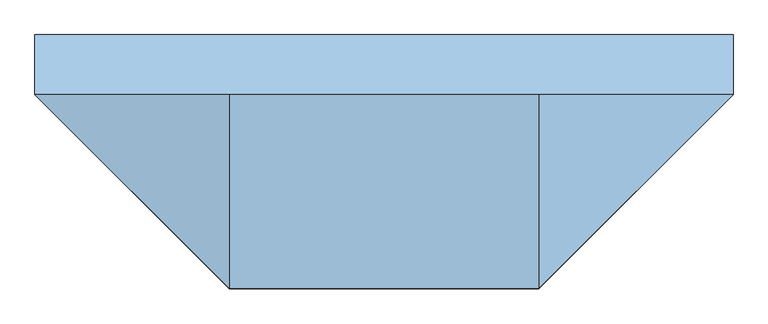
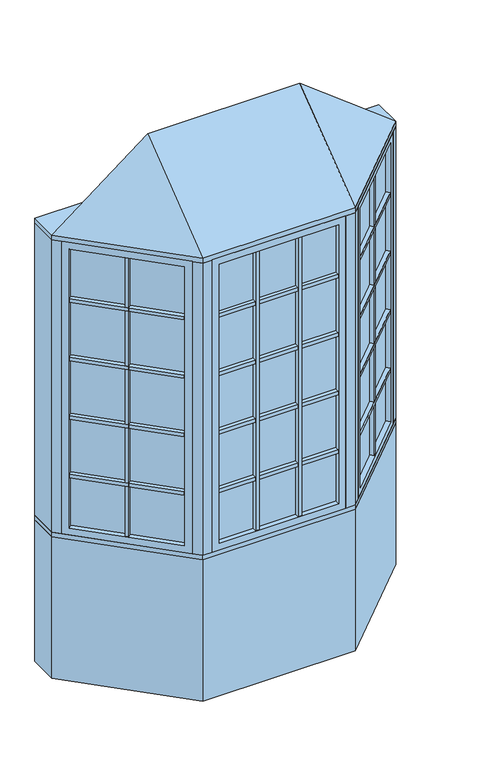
"""IFC4 building model written with IfcOpenShell, lengths in millimetres: window geometry, Pollard_Windows_Tudor Casement Bows and Bays : AML-BAY 45 AFR0516-08-600_GC."""

from ifc_helpers import new_model, si_unit, frame, origin, origin_with_axes, place, context, project, spatial, polyline, outline, extrude, faceted_brep, source, transform, mapped, element, save


def window_a070897f(model_context):
    return source(origin(), model_context, "Body", "SolidModel", [
        extrude(outline(polyline([(453.0114193, -506.9608753), (437.4550701, -491.4045261), (815.116171, -113.7434252), (830.6725202, -129.2997743), (453.0114193, -506.9608753)])), frame((0.0, 0.0, 1110.998), z_axis=(0.0, 0.0, 1.0), x_axis=(1.0, 0.0, 0.0)), (0.0, 0.0, 1.0), 18.0),
        extrude(outline(polyline([(433.8629677, -487.8124236), (418.3066185, -472.2560744), (795.9677194, -94.5949735), (811.5240686, -110.1513227), (433.8629677, -487.8124236)])), frame((0.0, 0.0, 1110.998), z_axis=(0.0, 0.0, 1.0), x_axis=(1.0, 0.0, 0.0)), (0.0, 0.0, 1.0), 18.0),
        extrude(outline(polyline([(453.0114193, -506.9608753), (437.4550701, -491.4045261), (815.116171, -113.7434252), (830.6725202, -129.2997743), (453.0114193, -506.9608753)])), frame((0.0, 0.0, 1430.998), z_axis=(0.0, 0.0, 1.0), x_axis=(1.0, 0.0, 0.0)), (0.0, 0.0, 1.0), 18.0),
        extrude(outline(polyline([(433.8629677, -487.8124236), (418.3066185, -472.2560744), (795.9677194, -94.5949735), (811.5240686, -110.1513227), (433.8629677, -487.8124236)])), frame((0.0, 0.0, 1430.998), z_axis=(0.0, 0.0, 1.0), x_axis=(1.0, 0.0, 0.0)), (0.0, 0.0, 1.0), 18.0),
        extrude(outline(polyline([(453.0114193, -506.9608753), (437.4550701, -491.4045261), (815.116171, -113.7434252), (830.6725202, -129.2997743), (453.0114193, -506.9608753)])), frame((0.0, 0.0, 1750.998), z_axis=(0.0, 0.0, 1.0), x_axis=(1.0, 0.0, 0.0)), (0.0, 0.0, 1.0), 18.0),
        extrude(outline(polyline([(433.8629677, -487.8124236), (418.3066185, -472.2560744), (795.9677194, -94.5949735), (811.5240686, -110.1513227), (433.8629677, -487.8124236)])), frame((0.0, 0.0, 1750.998), z_axis=(0.0, 0.0, 1.0), x_axis=(1.0, 0.0, 0.0)), (0.0, 0.0, 1.0), 18.0),
        extrude(outline(polyline([(453.0114193, -506.9608753), (437.4550701, -491.4045261), (815.116171, -113.7434252), (830.6725202, -129.2997743), (453.0114193, -506.9608753)])), frame((0.0, 0.0, 2070.998), z_axis=(0.0, 0.0, 1.0), x_axis=(1.0, 0.0, 0.0)), (0.0, 0.0, 1.0), 18.0),
        extrude(outline(polyline([(433.8629677, -487.8124236), (418.3066185, -472.2560744), (795.9677194, -94.5949735), (811.5240686, -110.1513227), (433.8629677, -487.8124236)])), frame((0.0, 0.0, 2070.998), z_axis=(0.0, 0.0, 1.0), x_axis=(1.0, 0.0, 0.0)), (0.0, 0.0, 1.0), 18.0),
        extrude(outline(polyline([(632.6495816, -296.2100146), (648.2059308, -311.7663638), (635.4780087, -324.4942858), (619.9216595, -308.9379366), (632.6495816, -296.2100146)])), frame((0.0, 0.0, 835.8628), z_axis=(0.0, 0.0, 1.0), x_axis=(1.0, 0.0, 0.0)), (0.0, 0.0, 1.0), 1528.2704),
        extrude(outline(polyline([(629.0574791, -292.6179121), (616.3295571, -305.3458342), (600.7732079, -289.789485), (613.50113, -277.0615629), (629.0574791, -292.6179121)])), frame((0.0, 0.0, 835.8628), z_axis=(0.0, 0.0, 1.0), x_axis=(1.0, 0.0, 0.0)), (0.0, 0.0, 1.0), 1528.2704),
        extrude(outline(polyline([(824.0964271, -104.763169), (428.474814, -500.3847822), (424.8827115, -496.7926797), (820.5043247, -101.1710666), (824.0964271, -104.763169)])), frame((0.0, 0.0, 823.1628), z_axis=(0.0, 0.0, 1.0), x_axis=(1.0, 0.0, 0.0)), (0.0, 0.0, 1.0), 1553.6704),
        faceted_brep([(815.116171, -113.7434252, 835.8628), (833.0766833, -131.7039374, 835.8628), (833.0766833, -131.7039374, 2364.1332), (815.116171, -113.7434252, 2364.1332), (820.5043247, -101.1710666, 823.1628), (824.0964271, -104.763169, 823.1628), (824.0964271, -104.763169, 2376.8332), (820.5043247, -101.1710666, 2376.8332), (793.5635563, -92.1908105, 835.8628), (811.5240686, -110.1513227, 835.8628), (811.5240686, -110.1513227, 2364.1332), (793.5635563, -92.1908105, 2364.1332), (858.4369265, -106.3436941, 799.998), (818.9237996, -66.8305672, 799.998), (818.9237996, -66.8305672, 2399.998), (858.4369265, -106.3436941, 2399.998), (455.4155823, -509.3650383, 2364.1332), (437.4550701, -491.4045261, 2364.1332), (428.474814, -500.3847822, 2376.8332), (424.8827115, -496.7926797, 2376.8332), (433.8629677, -487.8124236, 2364.1332), (415.9024554, -469.8519114, 2364.1332), (390.5422121, -495.2121547, 2399.998), (430.0553391, -534.7252816, 2399.998), (455.4155823, -509.3650383, 835.8628), (437.4550701, -491.4045261, 835.8628), (428.474814, -500.3847822, 823.1628), (424.8827115, -496.7926797, 823.1628), (433.8629677, -487.8124236, 835.8628), (415.9024554, -469.8519114, 835.8628), (390.5422121, -495.2121547, 799.998), (430.0553391, -534.7252816, 799.998)], [[[0, 1, 2, 3]], [[4, 5, 6, 7]], [[8, 9, 10, 11]], [[12, 13, 14, 15]], [[3, 2, 16, 17]], [[7, 6, 18, 19]], [[11, 10, 20, 21]], [[15, 14, 22, 23]], [[17, 16, 24, 25]], [[19, 18, 26, 27]], [[21, 20, 28, 29]], [[23, 22, 30, 31]], [[25, 24, 1, 0]], [[5, 26, 18, 6], [3, 17, 25, 0]], [[27, 26, 5, 4]], [[7, 19, 27, 4], [9, 28, 20, 10]], [[29, 28, 9, 8]], [[13, 30, 22, 14], [11, 21, 29, 8]], [[31, 30, 13, 12]], [[15, 23, 31, 12], [1, 24, 16, 2]]]),
        extrude(outline(polyline([(119.1785333, -544.6806207), (119.1785333, -566.6806207), (101.1785333, -566.6806207), (101.1785333, -544.6806207), (119.1785333, -544.6806207)])), frame((0.0, 0.0, 835.8628), z_axis=(0.0, 0.0, 1.0), x_axis=(1.0, 0.0, 0.0)), (0.0, 0.0, 1.0), 1528.2704),
        extrude(outline(polyline([(119.1785333, -539.6006207), (101.1785333, -539.6006207), (101.1785333, -517.6006207), (119.1785333, -517.6006207), (119.1785333, -539.6006207)])), frame((0.0, 0.0, 835.8628), z_axis=(0.0, 0.0, 1.0), x_axis=(1.0, 0.0, 0.0)), (0.0, 0.0, 1.0), 1528.2704),
        extrude(outline(polyline([(-101.1785333, -544.6806207), (-101.1785333, -566.6806207), (-119.1785333, -566.6806207), (-119.1785333, -544.6806207), (-101.1785333, -544.6806207)])), frame((0.0, 0.0, 835.8628), z_axis=(0.0, 0.0, 1.0), x_axis=(1.0, 0.0, 0.0)), (0.0, 0.0, 1.0), 1528.2704),
        extrude(outline(polyline([(-101.1785333, -539.6006207), (-119.1785333, -539.6006207), (-119.1785333, -517.6006207), (-101.1785333, -517.6006207), (-101.1785333, -539.6006207)])), frame((0.0, 0.0, 835.8628), z_axis=(0.0, 0.0, 1.0), x_axis=(1.0, 0.0, 0.0)), (0.0, 0.0, 1.0), 1528.2704),
        extrude(outline(polyline([(-308.8352, -566.6806207), (-308.8352, -544.6806207), (308.8352, -544.6806207), (308.8352, -566.6806207), (-308.8352, -566.6806207)])), frame((0.0, 0.0, 1110.998), z_axis=(0.0, 0.0, 1.0), x_axis=(1.0, 0.0, 0.0)), (0.0, 0.0, 1.0), 18.0),
        extrude(outline(polyline([(-308.8352, -539.6006207), (-308.8352, -517.6006207), (308.8352, -517.6006207), (308.8352, -539.6006207), (-308.8352, -539.6006207)])), frame((0.0, 0.0, 1110.998), z_axis=(0.0, 0.0, 1.0), x_axis=(1.0, 0.0, 0.0)), (0.0, 0.0, 1.0), 18.0),
        extrude(outline(polyline([(-308.8352, -566.6806207), (-308.8352, -544.6806207), (308.8352, -544.6806207), (308.8352, -566.6806207), (-308.8352, -566.6806207)])), frame((0.0, 0.0, 1430.998), z_axis=(0.0, 0.0, 1.0), x_axis=(1.0, 0.0, 0.0)), (0.0, 0.0, 1.0), 18.0),
        extrude(outline(polyline([(-308.8352, -539.6006207), (-308.8352, -517.6006207), (308.8352, -517.6006207), (308.8352, -539.6006207), (-308.8352, -539.6006207)])), frame((0.0, 0.0, 1430.998), z_axis=(0.0, 0.0, 1.0), x_axis=(1.0, 0.0, 0.0)), (0.0, 0.0, 1.0), 18.0),
        extrude(outline(polyline([(-308.8352, -566.6806207), (-308.8352, -544.6806207), (308.8352, -544.6806207), (308.8352, -566.6806207), (-308.8352, -566.6806207)])), frame((0.0, 0.0, 1750.998), z_axis=(0.0, 0.0, 1.0), x_axis=(1.0, 0.0, 0.0)), (0.0, 0.0, 1.0), 18.0),
        extrude(outline(polyline([(-308.8352, -539.6006207), (-308.8352, -517.6006207), (308.8352, -517.6006207), (308.8352, -539.6006207), (-308.8352, -539.6006207)])), frame((0.0, 0.0, 1750.998), z_axis=(0.0, 0.0, 1.0), x_axis=(1.0, 0.0, 0.0)), (0.0, 0.0, 1.0), 18.0),
        extrude(outline(polyline([(-830.6725202, -129.2997743), (-815.116171, -113.7434252), (-437.4550701, -491.4045261), (-453.0114193, -506.9608753), (-830.6725202, -129.2997743)])), frame((0.0, 0.0, 1110.998), z_axis=(0.0, 0.0, 1.0), x_axis=(1.0, 0.0, 0.0)), (0.0, 0.0, 1.0), 18.0),
        extrude(outline(polyline([(-811.5240686, -110.1513227), (-795.9677194, -94.5949735), (-418.3066185, -472.2560744), (-433.8629677, -487.8124236), (-811.5240686, -110.1513227)])), frame((0.0, 0.0, 1110.998), z_axis=(0.0, 0.0, 1.0), x_axis=(1.0, 0.0, 0.0)), (0.0, 0.0, 1.0), 18.0),
        extrude(outline(polyline([(-830.6725202, -129.2997743), (-815.116171, -113.7434252), (-437.4550701, -491.4045261), (-453.0114193, -506.9608753), (-830.6725202, -129.2997743)])), frame((0.0, 0.0, 1430.998), z_axis=(0.0, 0.0, 1.0), x_axis=(1.0, 0.0, 0.0)), (0.0, 0.0, 1.0), 18.0),
        extrude(outline(polyline([(-811.5240686, -110.1513227), (-795.9677194, -94.5949735), (-418.3066185, -472.2560744), (-433.8629677, -487.8124236), (-811.5240686, -110.1513227)])), frame((0.0, 0.0, 1430.998), z_axis=(0.0, 0.0, 1.0), x_axis=(1.0, 0.0, 0.0)), (0.0, 0.0, 1.0), 18.0),
        extrude(outline(polyline([(-830.6725202, -129.2997743), (-815.116171, -113.7434252), (-437.4550701, -491.4045261), (-453.0114193, -506.9608753), (-830.6725202, -129.2997743)])), frame((0.0, 0.0, 1750.998), z_axis=(0.0, 0.0, 1.0), x_axis=(1.0, 0.0, 0.0)), (0.0, 0.0, 1.0), 18.0),
        extrude(outline(polyline([(-811.5240686, -110.1513227), (-795.9677194, -94.5949735), (-418.3066185, -472.2560744), (-433.8629677, -487.8124236), (-811.5240686, -110.1513227)])), frame((0.0, 0.0, 1750.998), z_axis=(0.0, 0.0, 1.0), x_axis=(1.0, 0.0, 0.0)), (0.0, 0.0, 1.0), 18.0),
        extrude(outline(polyline([(-830.6725202, -129.2997743), (-815.116171, -113.7434252), (-437.4550701, -491.4045261), (-453.0114193, -506.9608753), (-830.6725202, -129.2997743)])), frame((0.0, 0.0, 2070.998), z_axis=(0.0, 0.0, 1.0), x_axis=(1.0, 0.0, 0.0)), (0.0, 0.0, 1.0), 18.0),
        extrude(outline(polyline([(-811.5240686, -110.1513227), (-795.9677194, -94.5949735), (-418.3066185, -472.2560744), (-433.8629677, -487.8124236), (-811.5240686, -110.1513227)])), frame((0.0, 0.0, 2070.998), z_axis=(0.0, 0.0, 1.0), x_axis=(1.0, 0.0, 0.0)), (0.0, 0.0, 1.0), 18.0),
        extrude(outline(polyline([(-308.8352, -566.6806207), (-308.8352, -544.6806207), (308.8352, -544.6806207), (308.8352, -566.6806207), (-308.8352, -566.6806207)])), frame((0.0, 0.0, 2070.998), z_axis=(0.0, 0.0, 1.0), x_axis=(1.0, 0.0, 0.0)), (0.0, 0.0, 1.0), 18.0),
        extrude(outline(polyline([(-308.8352, -539.6006207), (-308.8352, -517.6006207), (308.8352, -517.6006207), (308.8352, -539.6006207), (-308.8352, -539.6006207)])), frame((0.0, 0.0, 2070.998), z_axis=(0.0, 0.0, 1.0), x_axis=(1.0, 0.0, 0.0)), (0.0, 0.0, 1.0), 18.0),
        extrude(outline(polyline([(-619.9216595, -308.9379366), (-635.4780087, -324.4942858), (-648.2059308, -311.7663638), (-632.6495816, -296.2100146), (-619.9216595, -308.9379366)])), frame((0.0, 0.0, 835.8628), z_axis=(0.0, 0.0, 1.0), x_axis=(1.0, 0.0, 0.0)), (0.0, 0.0, 1.0), 1528.2704),
        extrude(outline(polyline([(-616.3295571, -305.3458342), (-629.0574791, -292.6179121), (-613.50113, -277.0615629), (-600.7732079, -289.789485), (-616.3295571, -305.3458342)])), frame((0.0, 0.0, 835.8628), z_axis=(0.0, 0.0, 1.0), x_axis=(1.0, 0.0, 0.0)), (0.0, 0.0, 1.0), 1528.2704),
        extrude(outline(polyline([(-428.474814, -500.3847822), (-824.0964271, -104.763169), (-820.5043247, -101.1710666), (-424.8827115, -496.7926797), (-428.474814, -500.3847822)])), frame((0.0, 0.0, 823.1628), z_axis=(0.0, 0.0, 1.0), x_axis=(1.0, 0.0, 0.0)), (0.0, 0.0, 1.0), 1553.6704),
        faceted_brep([(-433.8629677, -487.8124236, 2364.1332), (-415.9024554, -469.8519114, 2364.1332), (-415.9024554, -469.8519114, 835.8628), (-433.8629677, -487.8124236, 835.8628), (-428.474814, -500.3847822, 2376.8332), (-424.8827115, -496.7926797, 2376.8332), (-424.8827115, -496.7926797, 823.1628), (-428.474814, -500.3847822, 823.1628), (-455.4155823, -509.3650383, 2364.1332), (-437.4550701, -491.4045261, 2364.1332), (-437.4550701, -491.4045261, 835.8628), (-455.4155823, -509.3650383, 835.8628), (-390.5422121, -495.2121547, 2399.998), (-430.0553391, -534.7252816, 2399.998), (-430.0553391, -534.7252816, 799.998), (-390.5422121, -495.2121547, 799.998), (-793.5635563, -92.1908105, 835.8628), (-811.5240686, -110.1513227, 835.8628), (-820.5043247, -101.1710666, 823.1628), (-824.0964271, -104.763169, 823.1628), (-815.116171, -113.7434252, 835.8628), (-833.0766833, -131.7039374, 835.8628), (-858.4369265, -106.3436941, 799.998), (-818.9237996, -66.8305672, 799.998), (-793.5635563, -92.1908105, 2364.1332), (-811.5240686, -110.1513227, 2364.1332), (-820.5043247, -101.1710666, 2376.8332), (-824.0964271, -104.763169, 2376.8332), (-815.116171, -113.7434252, 2364.1332), (-833.0766833, -131.7039374, 2364.1332), (-858.4369265, -106.3436941, 2399.998), (-818.9237996, -66.8305672, 2399.998)], [[[0, 1, 2, 3]], [[4, 5, 6, 7]], [[8, 9, 10, 11]], [[12, 13, 14, 15]], [[3, 2, 16, 17]], [[7, 6, 18, 19]], [[11, 10, 20, 21]], [[15, 14, 22, 23]], [[17, 16, 24, 25]], [[19, 18, 26, 27]], [[21, 20, 28, 29]], [[23, 22, 30, 31]], [[15, 23, 31, 12], [1, 24, 16, 2]], [[25, 24, 1, 0]], [[5, 26, 18, 6], [3, 17, 25, 0]], [[27, 26, 5, 4]], [[7, 19, 27, 4], [9, 28, 20, 10]], [[29, 28, 9, 8]], [[13, 30, 22, 14], [11, 21, 29, 8]], [[31, 30, 13, 12]]]),
        extrude(outline(polyline([(321.5352, -544.6806207), (-321.5352, -544.6806207), (-321.5352, -539.6006207), (321.5352, -539.6006207), (321.5352, -544.6806207)])), frame((0.0, 0.0, 823.1628), z_axis=(0.0, 0.0, 1.0), x_axis=(1.0, 0.0, 0.0)), (0.0, 0.0, 1.0), 1553.6704),
        faceted_brep([(308.8352, -544.6806207, 835.8628), (308.8352, -570.0806207, 835.8628), (308.8352, -570.0806207, 2364.1332), (308.8352, -544.6806207, 2364.1332), (321.5352, -539.6006207, 823.1628), (321.5352, -544.6806207, 823.1628), (321.5352, -544.6806207, 2376.8332), (321.5352, -539.6006207, 2376.8332), (308.8352, -514.2006207, 835.8628), (308.8352, -539.6006207, 835.8628), (308.8352, -539.6006207, 2364.1332), (308.8352, -514.2006207, 2364.1332), (344.7, -570.0806207, 799.998), (344.7, -514.2006207, 799.998), (344.7, -514.2006207, 2399.998), (344.7, -570.0806207, 2399.998), (-308.8352, -570.0806207, 2364.1332), (-308.8352, -544.6806207, 2364.1332), (-321.5352, -544.6806207, 2376.8332), (-321.5352, -539.6006207, 2376.8332), (-308.8352, -539.6006207, 2364.1332), (-308.8352, -514.2006207, 2364.1332), (-344.7, -514.2006207, 2399.998), (-344.7, -570.0806207, 2399.998), (-308.8352, -570.0806207, 835.8628), (-308.8352, -544.6806207, 835.8628), (-321.5352, -544.6806207, 823.1628), (-321.5352, -539.6006207, 823.1628), (-308.8352, -539.6006207, 835.8628), (-308.8352, -514.2006207, 835.8628), (-344.7, -514.2006207, 799.998), (-344.7, -570.0806207, 799.998)], [[[0, 1, 2, 3]], [[4, 5, 6, 7]], [[8, 9, 10, 11]], [[12, 13, 14, 15]], [[3, 2, 16, 17]], [[7, 6, 18, 19]], [[11, 10, 20, 21]], [[15, 14, 22, 23]], [[17, 16, 24, 25]], [[19, 18, 26, 27]], [[21, 20, 28, 29]], [[23, 22, 30, 31]], [[15, 23, 31, 12], [1, 24, 16, 2]], [[25, 24, 1, 0]], [[5, 26, 18, 6], [3, 17, 25, 0]], [[27, 26, 5, 4]], [[7, 19, 27, 4], [9, 28, 20, 10]], [[29, 28, 9, 8]], [[13, 30, 22, 14], [11, 21, 29, 8]], [[31, 30, 13, 12]]]),
        faceted_brep([(890.0, -74.7806207, 2425.398), (394.7, -570.0806207, 2425.398), (-394.7, -570.0806207, 2425.398), (-890.0, -74.7806207, 2425.398), (-394.7, -74.7806207, 2806.398), (394.7, -74.7806207, 2806.398)], [[[0, 1, 2, 3]], [[3, 2, 4]], [[2, 1, 5, 4]], [[1, 0, 5]], [[0, 3, 4, 5]]]),
        extrude(outline(polyline([(-890.0, 77.6193793), (890.0, 77.6193793), (890.0, -74.7806207), (394.7, -570.0806207), (-394.7, -570.0806207), (-890.0, -74.7806207), (-890.0, 77.6193793)])), frame((0.0, 0.0, 2399.998), z_axis=(0.0, 0.0, 1.0), x_axis=(1.0, 0.0, 0.0)), (0.0, 0.0, 1.0), 25.4),
        extrude(outline(polyline([(-890.0, -74.7806207), (-890.0, 77.6193793), (-826.8738531, 77.6193793), (-826.8738531, -74.7806207), (-858.4369265, -106.3436941), (-890.0, -74.7806207)])), frame((0.0, 0.0, 799.998), z_axis=(0.0, 0.0, 1.0), x_axis=(1.0, 0.0, 0.0)), (0.0, 0.0, 1.0), 1600.0),
        extrude(outline(polyline([(890.0, 77.6193793), (890.0, -74.7806207), (858.4369265, -106.3436941), (826.8738531, -74.7806207), (826.8738531, 77.6193793), (890.0, 77.6193793)])), frame((0.0, 0.0, 799.998), z_axis=(0.0, 0.0, 1.0), x_axis=(1.0, 0.0, 0.0)), (0.0, 0.0, 1.0), 1600.0),
        extrude(outline(polyline([(394.7, -570.0806207), (344.7, -570.0806207), (344.7, -520.0806207), (373.9893219, -520.0806207), (394.7, -499.3699425), (430.0553391, -534.7252816), (394.7, -570.0806207)])), frame((0.0, 0.0, 799.998), z_axis=(0.0, 0.0, 1.0), x_axis=(1.0, 0.0, 0.0)), (0.0, 0.0, 1.0), 1600.0),
        extrude(outline(polyline([(-394.7, -570.0806207), (-430.0553391, -534.7252816), (-394.7, -499.3699425), (-373.9893219, -520.0806207), (-344.7, -520.0806207), (-344.7, -570.0806207), (-394.7, -570.0806207)])), frame((0.0, 0.0, 799.998), z_axis=(0.0, 0.0, 1.0), x_axis=(1.0, 0.0, 0.0)), (0.0, 0.0, 1.0), 1600.0),
        extrude(outline(polyline([(-394.7, -570.0806207), (-890.0, -74.7806207), (-890.0, 77.6193793), (-826.8738531, 77.6193793), (-331.5738531, -417.6806207), (331.5738531, -417.6806207), (826.8738531, 77.6193793), (890.0, 77.6193793), (890.0, -74.7806207), (394.7, -570.0806207), (-394.7, -570.0806207)])), frame((0.0, 0.0, 774.598), z_axis=(0.0, 0.0, 1.0), x_axis=(1.0, 0.0, 0.0)), (0.0, 0.0, 1.0), 25.4),
        extrude(outline(polyline([(-890.0, -74.7806207), (-890.0, 77.6193793), (-826.8738531, 77.6193793), (-331.5738531, -417.6806207), (331.5738531, -417.6806207), (826.8738531, 77.6193793), (890.0, 77.6193793), (890.0, -74.7806207), (394.7, -570.0806207), (-394.7, -570.0806207), (-890.0, -74.7806207)])), origin_with_axes(), (0.0, 0.0, 1.0), 774.598),
    ])


if __name__ == "__main__":
    model = new_model("IFC4")
    model_context = context("Model", 3, world=origin())
    ifc_project = project(units=[si_unit("LENGTHUNIT", "METRE", prefix="MILLI")], contexts=[model_context])
    site = spatial("IfcSite", under=ifc_project)
    building = spatial("IfcBuilding", under=site)
    placement = place(None, origin())
    window_shape = window_a070897f(model_context)
    element("IfcWindow", 1, ObjectType="Pollard_Windows_Tudor Casement Bows and Bays : AML-BAY 45 AFR0516-08-600_GC", at=placement, inside=building, context=model_context, shape_type="MappedRepresentation", body=[
        mapped(window_shape, transform((0.0, 0.0, 0.0), x_axis=(1.0, 0.0, 0.0), y_axis=(0.0, 1.0, 0.0), z_axis=(0.0, 0.0, 1.0))),
    ])
    save(model, "model.ifc")
